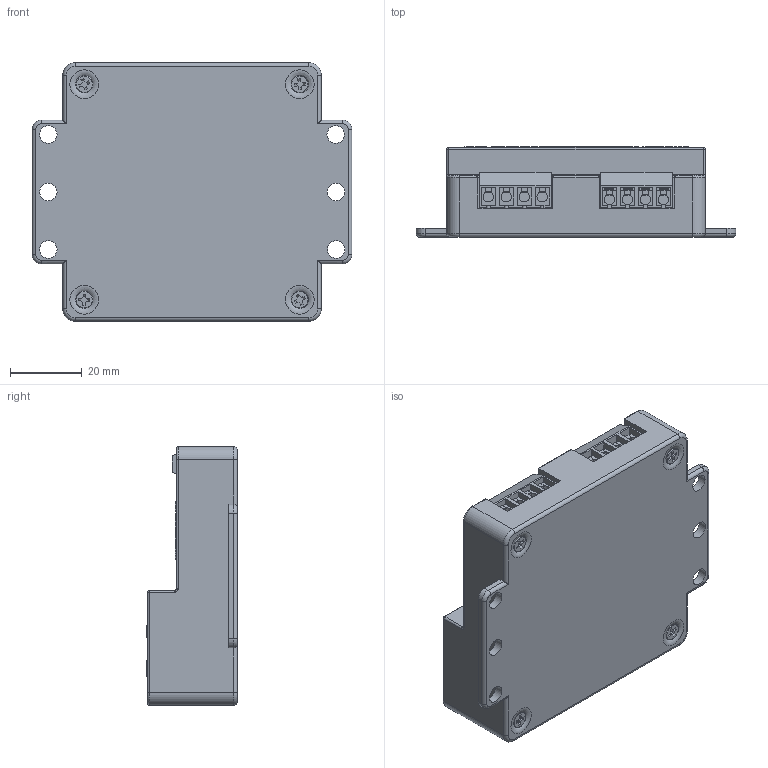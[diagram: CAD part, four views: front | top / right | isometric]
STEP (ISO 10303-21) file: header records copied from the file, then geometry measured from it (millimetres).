
FILE_DESCRIPTION(/* description */ (''),/* implementation_level */ '2;1');
FILE_NAME(/* name */ 'D:\FIRST\FTC KOP 2017\FTC 2017 KOP\Tetrix STEP\Miscellaneous\Tetrix_991444.ipt.step',/* time_stamp */ '2017-01-03T09:05:50-08:00',/* author */ ('Autodesk Inc.'),/* organization */ ('Autodesk Inc.'),/* preprocessor_version */ 'ST-DEVELOPER v16.5',/* originating_system */ 'Autodesk Inventor 2017',/* authorisation */ '');
FILE_SCHEMA (('AUTOMOTIVE_DESIGN { 1 0 10303 214 3 1 1 }'));
Products named in the file (1): 991444
Bounding box: 89 x 25.25 x 72 mm (x, y, z)
Volume: 36590.9 mm3; surface area: 40459.6 mm2
Topology: 3 solids, 16 shells, 2493 faces, 6665 edges, 4364 vertices
Faces by surface type: plane 1580, bspline 414, cone 270, cylinder 169, torus 58, sphere 2
Full cylindrical faces by diameter (mm): 1 x8, 2.4 x8, 2.5 x12, 2.9 x8, 3 x5, 3.7 x17, 4 x4, 4.85 x6, 5 x6
Entity records: 101393 total; most frequent: CARTESIAN_POINT 42750, ORIENTED_EDGE 12998, DIRECTION 10150, EDGE_CURVE 6495, LINE 4734, VECTOR 4734, VERTEX_POINT 4306, EDGE_LOOP 2851
